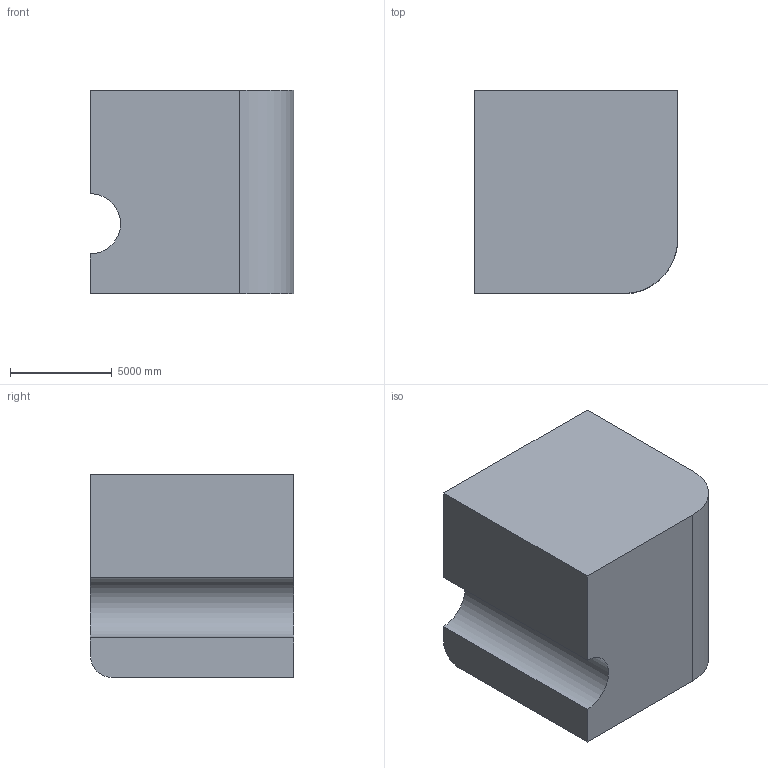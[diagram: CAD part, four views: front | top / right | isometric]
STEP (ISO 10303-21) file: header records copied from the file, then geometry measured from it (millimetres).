
FILE_DESCRIPTION (( 'STEP AP203' ), '1' );
FILE_NAME ('125.STEP', '2022-09-06T13:19:53', ( 'user' ), ( '' ), 'SwSTEP 2.0', 'SolidWorks 2021', '' );
FILE_SCHEMA (( 'CONFIG_CONTROL_DESIGN' ));
Length unit declared in the file: centimetre
Products named in the file (1): 125
Bounding box: 10000 x 10000 x 10000 mm (x, y, z)
Volume: 947874535049.9 mm3; surface area: 590417172.8 mm2
Topology: 1 solids, 1 shells, 10 faces, 24 edges, 16 vertices
Faces by surface type: plane 7, cylinder 3
Entity records: 371 total; most frequent: DIRECTION 52, CARTESIAN_POINT 51, ORIENTED_EDGE 48, EDGE_CURVE 24, VECTOR 18, LINE 18, AXIS2_PLACEMENT_3D 17, VERTEX_POINT 16
